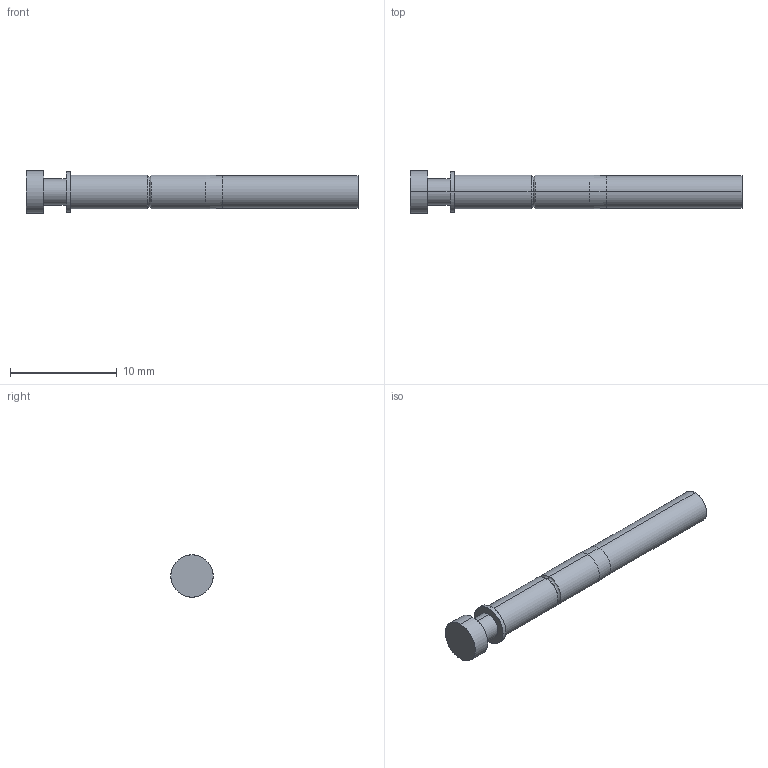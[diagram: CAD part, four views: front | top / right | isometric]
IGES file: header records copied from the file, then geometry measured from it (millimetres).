
Start section: SolidWorks IGES file using analytic representation for surfaces
Global section: file name: O:\PYLON\IGES FILES\P2550\P2550-8 REC'D.IGS; native system: SolidWorks 2015; preprocessor: SolidWorks 2015; author: kgolden; date: 171020.104715; units: inch
Bounding box: 31.14 x 3.96 x 3.96 mm (x, y, z)
Surface area: 407.4 mm2 (no closed solid volume)
Topology: 0 solids, 0 shells, 29 faces, 440 edges, 438 vertices
Faces by surface type: revolution 16, bspline 13
